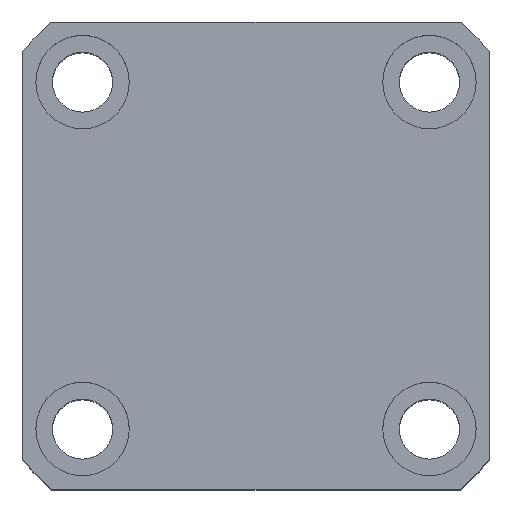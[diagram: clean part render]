
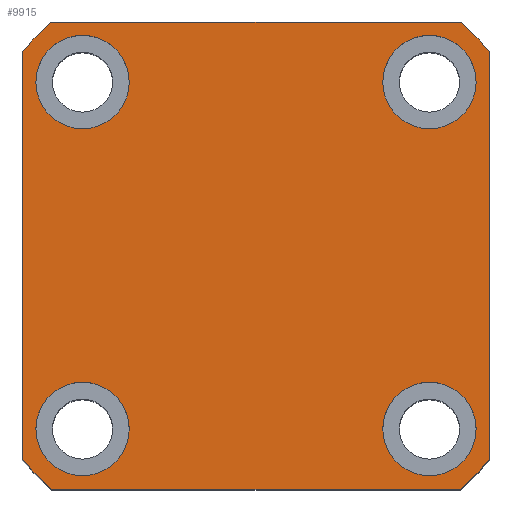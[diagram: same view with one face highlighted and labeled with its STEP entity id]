
A CAD part, top view. The second image highlights one B-rep face of the part: STEP entity #9915.
In plain terms, the highlighted planar face has unit normal (0, 0, 1).
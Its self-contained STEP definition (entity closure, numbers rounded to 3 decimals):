
#228 = CARTESIAN_POINT ( 'NONE',  ( 33., 26., 85. ) ) ;
#305 = CARTESIAN_POINT ( 'NONE',  ( 0., 0., 85. ) ) ;
#407 = VECTOR ( 'NONE', #10413, 1000. ) ;
#532 = PLANE ( 'NONE',  #6393 ) ;
#686 = CARTESIAN_POINT ( 'NONE',  ( 19., -26., 85. ) ) ;
#711 = VERTEX_POINT ( 'NONE', #11200 ) ;
#753 = VERTEX_POINT ( 'NONE', #686 ) ;
#761 = AXIS2_PLACEMENT_3D ( 'NONE', #305, #7692, #1351 ) ;
#925 = AXIS2_PLACEMENT_3D ( 'NONE', #2272, #9660, #3337 ) ;
#1117 = AXIS2_PLACEMENT_3D ( 'NONE', #2078, #9474, #3149 ) ;
#1317 = EDGE_CURVE ( 'NONE', #7871, #6820, #12058, .T. ) ;
#1351 = DIRECTION ( 'NONE',  ( 1., 0., 0. ) ) ;
#1459 = ORIENTED_EDGE ( 'NONE', *, *, #5762, .T. ) ;
#1506 = DIRECTION ( 'NONE',  ( 0., 0., 1. ) ) ;
#1584 = DIRECTION ( 'NONE',  ( 1., 0., 0. ) ) ;
#1649 = DIRECTION ( 'NONE',  ( 0., 1., 0. ) ) ;
#1814 = ORIENTED_EDGE ( 'NONE', *, *, #1317, .T. ) ;
#1934 = FACE_BOUND ( 'NONE', #9100, .T. ) ;
#2078 = CARTESIAN_POINT ( 'NONE',  ( -26., 26., 85. ) ) ;
#2144 = ORIENTED_EDGE ( 'NONE', *, *, #11502, .F. ) ;
#2163 = ORIENTED_EDGE ( 'NONE', *, *, #9758, .T. ) ;
#2272 = CARTESIAN_POINT ( 'NONE',  ( 26., 26., 85. ) ) ;
#2274 = FACE_BOUND ( 'NONE', #8495, .T. ) ;
#2362 = CARTESIAN_POINT ( 'NONE',  ( 35., -30.615, 85. ) ) ;
#2562 = EDGE_CURVE ( 'NONE', #7260, #753, #3252, .T. ) ;
#2760 = CARTESIAN_POINT ( 'NONE',  ( 19., 26., 85. ) ) ;
#2790 = DIRECTION ( 'NONE',  ( 0., 0., 1. ) ) ;
#2895 = DIRECTION ( 'NONE',  ( 0., 0., 1. ) ) ;
#2910 = CIRCLE ( 'NONE', #1117, 7. ) ;
#2915 = EDGE_LOOP ( 'NONE', ( #4800, #2144 ) ) ;
#2946 = EDGE_CURVE ( 'NONE', #6820, #9074, #12869, .T. ) ;
#2990 = EDGE_CURVE ( 'NONE', #9074, #711, #9032, .T. ) ;
#3013 = CARTESIAN_POINT ( 'NONE',  ( -35., 35., 85. ) ) ;
#3149 = DIRECTION ( 'NONE',  ( 1., 0., 0. ) ) ;
#3252 = CIRCLE ( 'NONE', #11797, 7. ) ;
#3303 = VERTEX_POINT ( 'NONE', #7520 ) ;
#3337 = DIRECTION ( 'NONE',  ( 1., 0., 0. ) ) ;
#3415 = VECTOR ( 'NONE', #12379, 1000. ) ;
#3474 = VERTEX_POINT ( 'NONE', #13007 ) ;
#3721 = DIRECTION ( 'NONE',  ( 0., 0., 1. ) ) ;
#3784 = ORIENTED_EDGE ( 'NONE', *, *, #12118, .F. ) ;
#3808 = VERTEX_POINT ( 'NONE', #10970 ) ;
#3981 = DIRECTION ( 'NONE',  ( 0., 0., 1. ) ) ;
#4102 = CARTESIAN_POINT ( 'NONE',  ( 33., -26., 85. ) ) ;
#4415 = CIRCLE ( 'NONE', #8643, 46.5 ) ;
#4477 = CARTESIAN_POINT ( 'NONE',  ( -26., -26., 85. ) ) ;
#4503 = CARTESIAN_POINT ( 'NONE',  ( -35., -35., 85. ) ) ;
#4650 = CARTESIAN_POINT ( 'NONE',  ( 30.615, 35., 85. ) ) ;
#4651 = ORIENTED_EDGE ( 'NONE', *, *, #7962, .F. ) ;
#4692 = DIRECTION ( 'NONE',  ( 0., 0., 1. ) ) ;
#4709 = CIRCLE ( 'NONE', #11653, 46.5 ) ;
#4727 = FACE_BOUND ( 'NONE', #2915, .T. ) ;
#4798 = EDGE_LOOP ( 'NONE', ( #1814, #12541, #5792, #2163, #7387, #11370, #1459, #13019 ) ) ;
#4800 = ORIENTED_EDGE ( 'NONE', *, *, #10427, .F. ) ;
#4951 = CARTESIAN_POINT ( 'NONE',  ( -35., 35., 85. ) ) ;
#5165 = CARTESIAN_POINT ( 'NONE',  ( -33., 26., 85. ) ) ;
#5494 = AXIS2_PLACEMENT_3D ( 'NONE', #10065, #3721, #11142 ) ;
#5526 = DIRECTION ( 'NONE',  ( 1., 0., 0. ) ) ;
#5762 = EDGE_CURVE ( 'NONE', #13229, #5835, #13568, .T. ) ;
#5792 = ORIENTED_EDGE ( 'NONE', *, *, #2990, .T. ) ;
#5835 = VERTEX_POINT ( 'NONE', #9878 ) ;
#5976 = EDGE_CURVE ( 'NONE', #753, #7260, #9403, .T. ) ;
#6154 = ORIENTED_EDGE ( 'NONE', *, *, #5976, .F. ) ;
#6221 = CARTESIAN_POINT ( 'NONE',  ( -26., 26., 85. ) ) ;
#6224 = CARTESIAN_POINT ( 'NONE',  ( 26., -26., 85. ) ) ;
#6393 = AXIS2_PLACEMENT_3D ( 'NONE', #11035, #7919, #1584 ) ;
#6514 = CIRCLE ( 'NONE', #12999, 7. ) ;
#6820 = VERTEX_POINT ( 'NONE', #9849 ) ;
#7260 = VERTEX_POINT ( 'NONE', #4102 ) ;
#7294 = DIRECTION ( 'NONE',  ( 1., 0., 0. ) ) ;
#7297 = DIRECTION ( 'NONE',  ( 1., 0., 0. ) ) ;
#7387 = ORIENTED_EDGE ( 'NONE', *, *, #11971, .T. ) ;
#7502 = VERTEX_POINT ( 'NONE', #5165 ) ;
#7520 = CARTESIAN_POINT ( 'NONE',  ( -35., -30.615, 85. ) ) ;
#7686 = EDGE_CURVE ( 'NONE', #8762, #7826, #10713, .T. ) ;
#7692 = DIRECTION ( 'NONE',  ( 0., 0., 1. ) ) ;
#7826 = VERTEX_POINT ( 'NONE', #228 ) ;
#7838 = CARTESIAN_POINT ( 'NONE',  ( 26., 26., 85. ) ) ;
#7871 = VERTEX_POINT ( 'NONE', #2362 ) ;
#7919 = DIRECTION ( 'NONE',  ( 0., 0., 1. ) ) ;
#7962 = EDGE_CURVE ( 'NONE', #7826, #8762, #6514, .T. ) ;
#8043 = CIRCLE ( 'NONE', #11152, 7. ) ;
#8495 = EDGE_LOOP ( 'NONE', ( #4651, #11662 ) ) ;
#8521 = CARTESIAN_POINT ( 'NONE',  ( -19., 26., 85. ) ) ;
#8536 = AXIS2_PLACEMENT_3D ( 'NONE', #10325, #3981, #11411 ) ;
#8643 = AXIS2_PLACEMENT_3D ( 'NONE', #9224, #2895, #10295 ) ;
#8647 = AXIS2_PLACEMENT_3D ( 'NONE', #6221, #13665, #7294 ) ;
#8762 = VERTEX_POINT ( 'NONE', #2760 ) ;
#8879 = CIRCLE ( 'NONE', #761, 46.5 ) ;
#8884 = VECTOR ( 'NONE', #1649, 1000. ) ;
#8911 = EDGE_CURVE ( 'NONE', #3303, #13229, #4415, .T. ) ;
#8916 = DIRECTION ( 'NONE',  ( 1., 0., 0. ) ) ;
#8965 = VERTEX_POINT ( 'NONE', #9314 ) ;
#8991 = ORIENTED_EDGE ( 'NONE', *, *, #12702, .F. ) ;
#9032 = LINE ( 'NONE', #4951, #3415 ) ;
#9053 = CARTESIAN_POINT ( 'NONE',  ( 35., 35., 85. ) ) ;
#9074 = VERTEX_POINT ( 'NONE', #4650 ) ;
#9100 = EDGE_LOOP ( 'NONE', ( #8991, #3784 ) ) ;
#9120 = CARTESIAN_POINT ( 'NONE',  ( 0., 0., 85. ) ) ;
#9224 = CARTESIAN_POINT ( 'NONE',  ( 0., 0., 85. ) ) ;
#9314 = CARTESIAN_POINT ( 'NONE',  ( -35., 30.615, 85. ) ) ;
#9403 = CIRCLE ( 'NONE', #5494, 7. ) ;
#9474 = DIRECTION ( 'NONE',  ( 0., 0., 1. ) ) ;
#9660 = DIRECTION ( 'NONE',  ( 0., 0., 1. ) ) ;
#9758 = EDGE_CURVE ( 'NONE', #711, #8965, #8879, .T. ) ;
#9849 = CARTESIAN_POINT ( 'NONE',  ( 35., 30.615, 85. ) ) ;
#9878 = CARTESIAN_POINT ( 'NONE',  ( 30.615, -35., 85. ) ) ;
#9915 = ADVANCED_FACE ( 'NONE', ( #4727, #10381, #2274, #1934, #12881 ), #532, .T. ) ;
#10065 = CARTESIAN_POINT ( 'NONE',  ( 26., -26., 85. ) ) ;
#10181 = DIRECTION ( 'NONE',  ( 1., 0., 0. ) ) ;
#10295 = DIRECTION ( 'NONE',  ( 1., 0., 0. ) ) ;
#10325 = CARTESIAN_POINT ( 'NONE',  ( -26., -26., 85. ) ) ;
#10381 = FACE_BOUND ( 'NONE', #12995, .T. ) ;
#10413 = DIRECTION ( 'NONE',  ( 0., -1., 0. ) ) ;
#10427 = EDGE_CURVE ( 'NONE', #3808, #3474, #8043, .T. ) ;
#10643 = CARTESIAN_POINT ( 'NONE',  ( -30.615, -35., 85. ) ) ;
#10713 = CIRCLE ( 'NONE', #925, 7. ) ;
#10854 = DIRECTION ( 'NONE',  ( 1., 0., 0. ) ) ;
#10970 = CARTESIAN_POINT ( 'NONE',  ( -19., -26., 85. ) ) ;
#11035 = CARTESIAN_POINT ( 'NONE',  ( 0., 0., 85. ) ) ;
#11061 = CARTESIAN_POINT ( 'NONE',  ( 0., 0., 85. ) ) ;
#11142 = DIRECTION ( 'NONE',  ( 1., 0., 0. ) ) ;
#11152 = AXIS2_PLACEMENT_3D ( 'NONE', #4477, #11917, #5526 ) ;
#11156 = EDGE_CURVE ( 'NONE', #5835, #7871, #4709, .T. ) ;
#11198 = CIRCLE ( 'NONE', #8536, 7. ) ;
#11200 = CARTESIAN_POINT ( 'NONE',  ( -30.615, 35., 85. ) ) ;
#11370 = ORIENTED_EDGE ( 'NONE', *, *, #8911, .T. ) ;
#11411 = DIRECTION ( 'NONE',  ( 1., 0., 0. ) ) ;
#11483 = AXIS2_PLACEMENT_3D ( 'NONE', #9120, #2790, #10181 ) ;
#11502 = EDGE_CURVE ( 'NONE', #3474, #3808, #11198, .T. ) ;
#11653 = AXIS2_PLACEMENT_3D ( 'NONE', #11061, #4692, #12134 ) ;
#11662 = ORIENTED_EDGE ( 'NONE', *, *, #7686, .F. ) ;
#11683 = LINE ( 'NONE', #3013, #407 ) ;
#11797 = AXIS2_PLACEMENT_3D ( 'NONE', #6224, #13668, #7297 ) ;
#11917 = DIRECTION ( 'NONE',  ( 0., 0., 1. ) ) ;
#11971 = EDGE_CURVE ( 'NONE', #8965, #3303, #11683, .T. ) ;
#12052 = CIRCLE ( 'NONE', #8647, 7. ) ;
#12058 = LINE ( 'NONE', #9053, #8884 ) ;
#12118 = EDGE_CURVE ( 'NONE', #7502, #12457, #2910, .T. ) ;
#12134 = DIRECTION ( 'NONE',  ( 1., 0., 0. ) ) ;
#12379 = DIRECTION ( 'NONE',  ( -1., 0., 0. ) ) ;
#12457 = VERTEX_POINT ( 'NONE', #8521 ) ;
#12541 = ORIENTED_EDGE ( 'NONE', *, *, #2946, .T. ) ;
#12702 = EDGE_CURVE ( 'NONE', #12457, #7502, #12052, .T. ) ;
#12869 = CIRCLE ( 'NONE', #11483, 46.5 ) ;
#12881 = FACE_OUTER_BOUND ( 'NONE', #4798, .T. ) ;
#12995 = EDGE_LOOP ( 'NONE', ( #13689, #6154 ) ) ;
#12999 = AXIS2_PLACEMENT_3D ( 'NONE', #7838, #1506, #8916 ) ;
#13007 = CARTESIAN_POINT ( 'NONE',  ( -33., -26., 85. ) ) ;
#13019 = ORIENTED_EDGE ( 'NONE', *, *, #11156, .T. ) ;
#13229 = VERTEX_POINT ( 'NONE', #10643 ) ;
#13239 = VECTOR ( 'NONE', #10854, 1000. ) ;
#13568 = LINE ( 'NONE', #4503, #13239 ) ;
#13665 = DIRECTION ( 'NONE',  ( 0., 0., 1. ) ) ;
#13668 = DIRECTION ( 'NONE',  ( 0., 0., 1. ) ) ;
#13689 = ORIENTED_EDGE ( 'NONE', *, *, #2562, .F. ) ;
